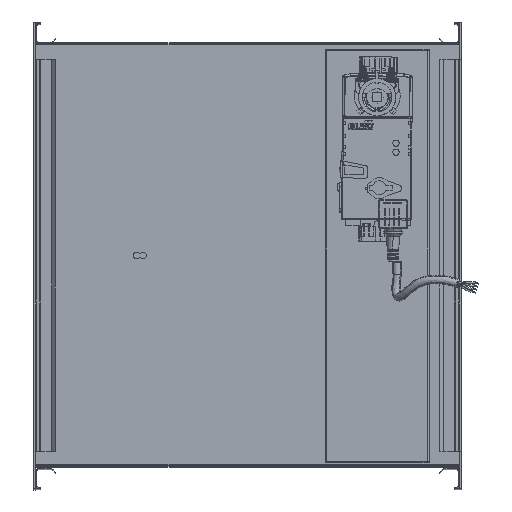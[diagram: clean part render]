
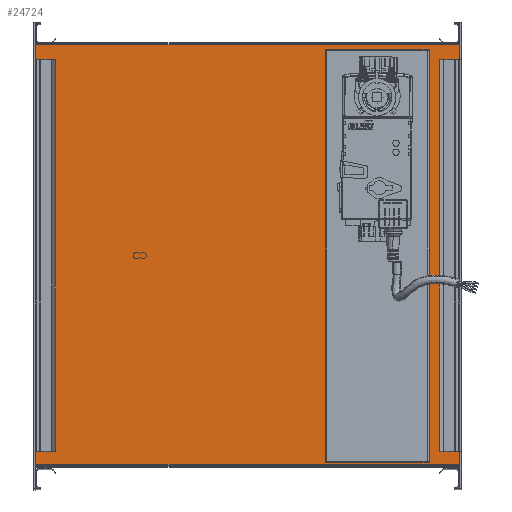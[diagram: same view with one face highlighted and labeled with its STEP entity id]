
A CAD part, top view. The second image highlights one B-rep face of the part: STEP entity #24724.
In plain terms, the highlighted planar face has unit normal (0, 0, 1).
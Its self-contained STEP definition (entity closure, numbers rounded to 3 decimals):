
#116 = VECTOR ( 'NONE', #30665, 1000. ) ;
#2608 = CARTESIAN_POINT ( 'NONE',  ( -244.423, -183.848, 1400. ) ) ;
#8000 = DIRECTION ( 'NONE',  ( 1., 0., 0. ) ) ;
#8479 = CARTESIAN_POINT ( 'NONE',  ( 28.936, -182.421, 1400. ) ) ;
#9072 = CARTESIAN_POINT ( 'NONE',  ( 126.936, 207.579, 1400. ) ) ;
#9642 = ORIENTED_EDGE ( 'NONE', *, *, #27220, .F. ) ;
#10455 = VECTOR ( 'NONE', #72524, 1000. ) ;
#11572 = EDGE_CURVE ( 'NONE', #21412, #46259, #41946, .T. ) ;
#11573 = EDGE_CURVE ( 'NONE', #82294, #45015, #28714, .T. ) ;
#12553 = CARTESIAN_POINT ( 'NONE',  ( 126.936, -182.421, 1400. ) ) ;
#13309 = ORIENTED_EDGE ( 'NONE', *, *, #89450, .T. ) ;
#13692 = DIRECTION ( 'NONE',  ( 0., -1., 0. ) ) ;
#14122 = FACE_BOUND ( 'NONE', #17653, .T. ) ;
#14884 = ORIENTED_EDGE ( 'NONE', *, *, #56062, .F. ) ;
#16331 = VECTOR ( 'NONE', #44728, 1000. ) ;
#16526 = DIRECTION ( 'NONE',  ( 1., 0., 0. ) ) ;
#16769 = DIRECTION ( 'NONE',  ( 0., -1., 0. ) ) ;
#17653 = EDGE_LOOP ( 'NONE', ( #84708, #14884, #40404, #9642 ) ) ;
#18321 = CARTESIAN_POINT ( 'NONE',  ( 126.936, 207.579, 1400. ) ) ;
#19811 = DIRECTION ( 'NONE',  ( 0., 0., 1. ) ) ;
#21412 = VERTEX_POINT ( 'NONE', #41899 ) ;
#24624 = EDGE_CURVE ( 'NONE', #45015, #42273, #67886, .T. ) ;
#24724 = ADVANCED_FACE ( 'NONE', ( #14122, #49510 ), #92786, .T. ) ;
#26866 = CARTESIAN_POINT ( 'NONE',  ( 126.936, -182.421, 1400. ) ) ;
#27220 = EDGE_CURVE ( 'NONE', #46259, #30034, #34655, .T. ) ;
#27992 = VERTEX_POINT ( 'NONE', #42002 ) ;
#28714 = LINE ( 'NONE', #86223, #67618 ) ;
#30034 = VERTEX_POINT ( 'NONE', #18321 ) ;
#30665 = DIRECTION ( 'NONE',  ( -1., 0., 0. ) ) ;
#31530 = CARTESIAN_POINT ( 'NONE',  ( -244.423, -183.848, 1400. ) ) ;
#32026 = DIRECTION ( 'NONE',  ( 0., -1., 0. ) ) ;
#33256 = ORIENTED_EDGE ( 'NONE', *, *, #11573, .F. ) ;
#34655 = LINE ( 'NONE', #12553, #49646 ) ;
#40037 = CARTESIAN_POINT ( 'NONE',  ( 155.577, -183.848, 1400. ) ) ;
#40404 = ORIENTED_EDGE ( 'NONE', *, *, #62297, .F. ) ;
#41899 = CARTESIAN_POINT ( 'NONE',  ( 28.936, -182.421, 1400. ) ) ;
#41946 = LINE ( 'NONE', #43789, #10455 ) ;
#42002 = CARTESIAN_POINT ( 'NONE',  ( -244.423, -183.848, 1400. ) ) ;
#42273 = VERTEX_POINT ( 'NONE', #78572 ) ;
#43789 = CARTESIAN_POINT ( 'NONE',  ( 126.936, -182.421, 1400. ) ) ;
#44728 = DIRECTION ( 'NONE',  ( 0., -1., 0. ) ) ;
#45015 = VERTEX_POINT ( 'NONE', #75971 ) ;
#46259 = VERTEX_POINT ( 'NONE', #26866 ) ;
#49510 = FACE_OUTER_BOUND ( 'NONE', #76507, .T. ) ;
#49646 = VECTOR ( 'NONE', #71407, 1000. ) ;
#56062 = EDGE_CURVE ( 'NONE', #81645, #21412, #87180, .T. ) ;
#60184 = VECTOR ( 'NONE', #32026, 1000. ) ;
#62297 = EDGE_CURVE ( 'NONE', #30034, #81645, #71276, .T. ) ;
#64060 = CARTESIAN_POINT ( 'NONE',  ( -244.423, -183.848, 1400. ) ) ;
#67393 = LINE ( 'NONE', #31530, #84191 ) ;
#67509 = VECTOR ( 'NONE', #16769, 1000. ) ;
#67618 = VECTOR ( 'NONE', #8000, 1000. ) ;
#67886 = LINE ( 'NONE', #40037, #60184 ) ;
#69631 = EDGE_CURVE ( 'NONE', #82294, #27992, #81332, .T. ) ;
#70710 = AXIS2_PLACEMENT_3D ( 'NONE', #64060, #19811, #13692 ) ;
#71270 = CARTESIAN_POINT ( 'NONE',  ( -244.423, 212.152, 1400. ) ) ;
#71276 = LINE ( 'NONE', #9072, #116 ) ;
#71407 = DIRECTION ( 'NONE',  ( 0., 1., 0. ) ) ;
#72524 = DIRECTION ( 'NONE',  ( 1., 0., 0. ) ) ;
#75971 = CARTESIAN_POINT ( 'NONE',  ( 155.577, 212.152, 1400. ) ) ;
#76507 = EDGE_LOOP ( 'NONE', ( #76792, #33256, #88526, #13309 ) ) ;
#76792 = ORIENTED_EDGE ( 'NONE', *, *, #24624, .F. ) ;
#78572 = CARTESIAN_POINT ( 'NONE',  ( 155.577, -183.848, 1400. ) ) ;
#81332 = LINE ( 'NONE', #2608, #67509 ) ;
#81645 = VERTEX_POINT ( 'NONE', #89794 ) ;
#82294 = VERTEX_POINT ( 'NONE', #71270 ) ;
#84191 = VECTOR ( 'NONE', #16526, 1000. ) ;
#84708 = ORIENTED_EDGE ( 'NONE', *, *, #11572, .F. ) ;
#86223 = CARTESIAN_POINT ( 'NONE',  ( -244.423, 212.152, 1400. ) ) ;
#87180 = LINE ( 'NONE', #8479, #16331 ) ;
#88526 = ORIENTED_EDGE ( 'NONE', *, *, #69631, .T. ) ;
#89450 = EDGE_CURVE ( 'NONE', #27992, #42273, #67393, .T. ) ;
#89794 = CARTESIAN_POINT ( 'NONE',  ( 28.936, 207.579, 1400. ) ) ;
#92786 = PLANE ( 'NONE',  #70710 ) ;
